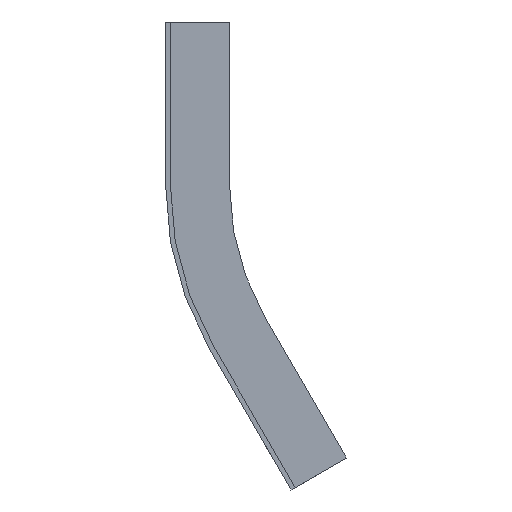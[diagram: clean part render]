
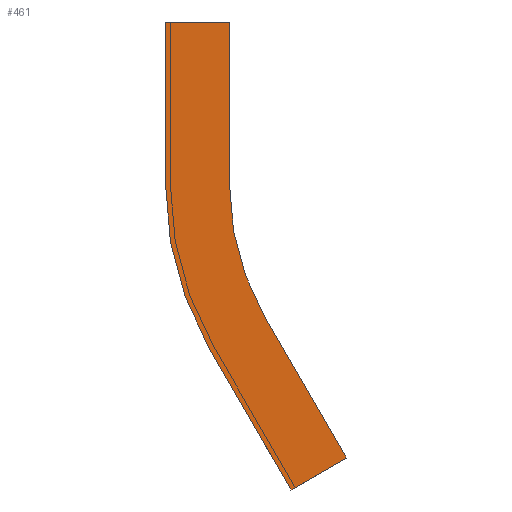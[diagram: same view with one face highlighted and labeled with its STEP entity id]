
A CAD part, left-side view. The second image highlights one B-rep face of the part: STEP entity #461.
In plain terms, the highlighted planar face has unit normal (-1, 0, 0).
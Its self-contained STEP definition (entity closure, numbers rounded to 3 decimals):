
#2 = EDGE_CURVE ( 'NONE', #409, #374, #338, .T. ) ;
#27 = ORIENTED_EDGE ( 'NONE', *, *, #171, .F. ) ;
#35 = DIRECTION ( 'NONE',  ( 0., 0., 1. ) ) ;
#40 = CARTESIAN_POINT ( 'NONE',  ( -253.5, -56.519, -136.291 ) ) ;
#55 = ORIENTED_EDGE ( 'NONE', *, *, #115, .F. ) ;
#57 = LINE ( 'NONE', #452, #138 ) ;
#62 = EDGE_LOOP ( 'NONE', ( #648, #496, #498, #27, #306, #613, #55, #547 ) ) ;
#67 = DIRECTION ( 'NONE',  ( 0., 0., 1. ) ) ;
#98 = DIRECTION ( 'NONE',  ( 0., 0., -1. ) ) ;
#115 = EDGE_CURVE ( 'NONE', #350, #488, #584, .T. ) ;
#138 = VECTOR ( 'NONE', #67, 1000. ) ;
#163 = CARTESIAN_POINT ( 'NONE',  ( -253.5, -20., -51.2 ) ) ;
#168 = LINE ( 'NONE', #704, #664 ) ;
#171 = EDGE_CURVE ( 'NONE', #374, #222, #168, .T. ) ;
#179 = DIRECTION ( 'NONE',  ( 1., 0., 0. ) ) ;
#198 = EDGE_CURVE ( 'NONE', #796, #350, #638, .T. ) ;
#222 = VERTEX_POINT ( 'NONE', #570 ) ;
#233 = CARTESIAN_POINT ( 'NONE',  ( -253.5, -20., 0. ) ) ;
#255 = DIRECTION ( 'NONE',  ( 0., 0., 1. ) ) ;
#270 = VECTOR ( 'NONE', #427, 1000. ) ;
#287 = VECTOR ( 'NONE', #98, 1000. ) ;
#290 = CARTESIAN_POINT ( 'NONE',  ( -253.5, -30.919, -91.95 ) ) ;
#306 = ORIENTED_EDGE ( 'NONE', *, *, #2, .F. ) ;
#325 = CARTESIAN_POINT ( 'NONE',  ( -253.5, -101.5, -51.2 ) ) ;
#332 = AXIS2_PLACEMENT_3D ( 'NONE', #325, #589, #794 ) ;
#338 = LINE ( 'NONE', #791, #620 ) ;
#350 = VERTEX_POINT ( 'NONE', #537 ) ;
#354 = DIRECTION ( 'NONE',  ( 0., 0.5, 0.866 ) ) ;
#362 = CARTESIAN_POINT ( 'NONE',  ( -253.5, 0., 0. ) ) ;
#368 = CARTESIAN_POINT ( 'NONE',  ( -253.5, -39.198, -146.291 ) ) ;
#371 = CARTESIAN_POINT ( 'NONE',  ( -253.5, -56.519, -136.291 ) ) ;
#374 = VERTEX_POINT ( 'NONE', #368 ) ;
#397 = AXIS2_PLACEMENT_3D ( 'NONE', #853, #179, #255 ) ;
#398 = CARTESIAN_POINT ( 'NONE',  ( -253.5, 0., -51.2 ) ) ;
#409 = VERTEX_POINT ( 'NONE', #40 ) ;
#417 = EDGE_CURVE ( 'NONE', #833, #796, #835, .T. ) ;
#427 = DIRECTION ( 'NONE',  ( 0., -1., 0. ) ) ;
#452 = CARTESIAN_POINT ( 'NONE',  ( -253.5, 0., 0. ) ) ;
#461 = ADVANCED_FACE ( 'NONE', ( #699 ), #626, .T. ) ;
#469 = CIRCLE ( 'NONE', #397, 101.5 ) ;
#482 = CARTESIAN_POINT ( 'NONE',  ( -253.5, -101.5, -51.2 ) ) ;
#488 = VERTEX_POINT ( 'NONE', #290 ) ;
#496 = ORIENTED_EDGE ( 'NONE', *, *, #728, .F. ) ;
#498 = ORIENTED_EDGE ( 'NONE', *, *, #697, .F. ) ;
#537 = CARTESIAN_POINT ( 'NONE',  ( -253.5, -20., -51.2 ) ) ;
#547 = ORIENTED_EDGE ( 'NONE', *, *, #198, .F. ) ;
#570 = CARTESIAN_POINT ( 'NONE',  ( -253.5, -13.598, -101.95 ) ) ;
#574 = DIRECTION ( 'NONE',  ( 0., -0.5, -0.866 ) ) ;
#584 = CIRCLE ( 'NONE', #332, 81.5 ) ;
#589 = DIRECTION ( 'NONE',  ( -1., 0., 0. ) ) ;
#613 = ORIENTED_EDGE ( 'NONE', *, *, #629, .F. ) ;
#620 = VECTOR ( 'NONE', #674, 1000. ) ;
#626 = PLANE ( 'NONE',  #712 ) ;
#629 = EDGE_CURVE ( 'NONE', #488, #409, #640, .T. ) ;
#638 = LINE ( 'NONE', #163, #287 ) ;
#640 = LINE ( 'NONE', #371, #803 ) ;
#648 = ORIENTED_EDGE ( 'NONE', *, *, #417, .F. ) ;
#664 = VECTOR ( 'NONE', #354, 1000. ) ;
#674 = DIRECTION ( 'NONE',  ( 0., 0.866, -0.5 ) ) ;
#697 = EDGE_CURVE ( 'NONE', #222, #819, #469, .T. ) ;
#699 = FACE_OUTER_BOUND ( 'NONE', #62, .T. ) ;
#704 = CARTESIAN_POINT ( 'NONE',  ( -253.5, -13.598, -101.95 ) ) ;
#712 = AXIS2_PLACEMENT_3D ( 'NONE', #482, #751, #35 ) ;
#728 = EDGE_CURVE ( 'NONE', #819, #833, #57, .T. ) ;
#730 = CARTESIAN_POINT ( 'NONE',  ( -253.5, -20., 0. ) ) ;
#751 = DIRECTION ( 'NONE',  ( -1., 0., 0. ) ) ;
#791 = CARTESIAN_POINT ( 'NONE',  ( -253.5, -39.198, -146.291 ) ) ;
#794 = DIRECTION ( 'NONE',  ( 0., 0., -1. ) ) ;
#796 = VERTEX_POINT ( 'NONE', #730 ) ;
#803 = VECTOR ( 'NONE', #574, 1000. ) ;
#819 = VERTEX_POINT ( 'NONE', #398 ) ;
#833 = VERTEX_POINT ( 'NONE', #362 ) ;
#835 = LINE ( 'NONE', #233, #270 ) ;
#853 = CARTESIAN_POINT ( 'NONE',  ( -253.5, -101.5, -51.2 ) ) ;
